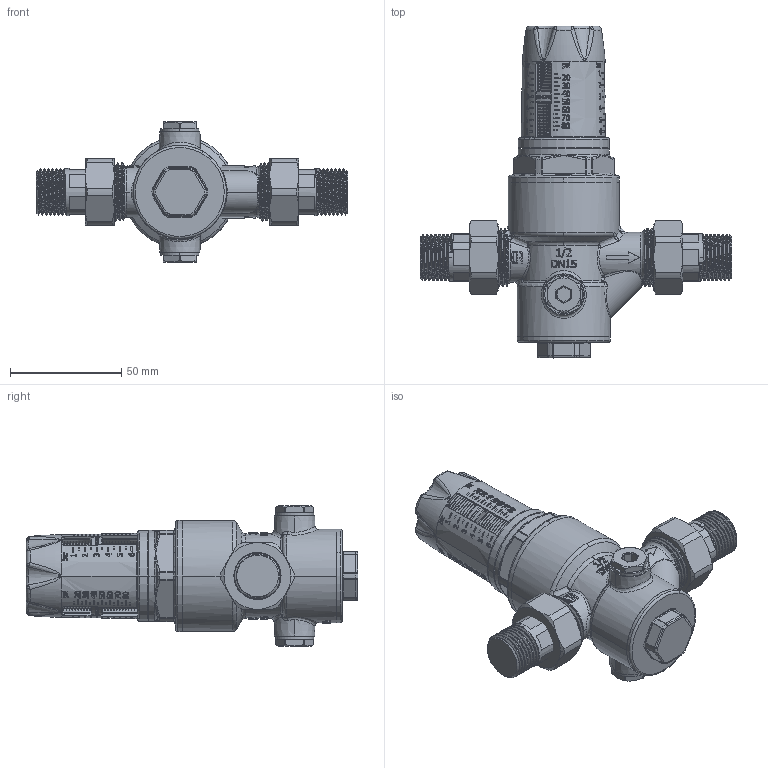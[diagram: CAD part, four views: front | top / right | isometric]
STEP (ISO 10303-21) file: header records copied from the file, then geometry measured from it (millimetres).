
FILE_DESCRIPTION (( 'STEP AP214' ), '1' );
FILE_NAME ('BPR_reduktor_cisnienia_wody_9042100_0_3D_AFRISO.STEP', '2025-04-16T12:26:44', ( '' ), ( '' ), 'SwSTEP 2.0', 'SolidWorks 2024', '' );
FILE_SCHEMA (( 'AUTOMOTIVE_DESIGN' ));
Length unit declared in the file: millimetre
Products named in the file (10): 3301.415.07; 7027.015.00; 3001.415.03; 4401.008.00; 3751.415.00; BPR_reduktor_cisnienia_wody_9042100_0_3D_AFRISO; 5301.415.00; 7012.015.00; 7002.015.00; 3494.120.00
Assembly tree (12 placements, depth 2):
  BPR_reduktor_cisnienia_wody_9042100_0_3D_AFRISO
    3001.415.03
    3301.415.07
    7012.015.00
    7002.015.00
    3751.415.00  x2
    3494.120.00  x2
    4401.008.00  x2
    5301.415.00
    7027.015.00
Bounding box: 140 x 149.31 x 63 mm (x, y, z)
Volume: 272865.4 mm3; surface area: 66250.1 mm2
Topology: 12 solids, 12 shells, 3748 faces, 9755 edges, 6161 vertices
Faces by surface type: bspline 1532, plane 1121, cylinder 476, cone 334, torus 214, sphere 71
Entity records: 439442 total; most frequent: CARTESIAN_POINT 330190, ORIENTED_EDGE 18556, DIRECTION 10057, EDGE_CURVE 9278, VERTEX_POINT 5944, B_SPLINE_CURVE_WITH_KNOTS 4234, EDGE_LOOP 3872, VECTOR 3793
